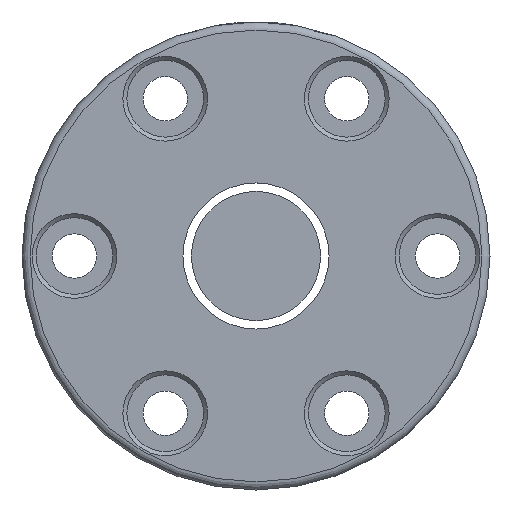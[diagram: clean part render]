
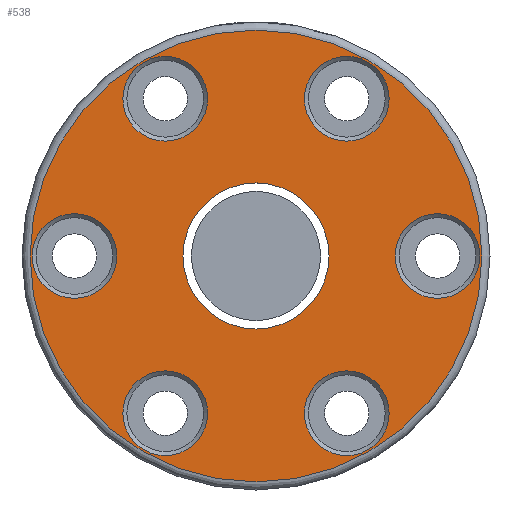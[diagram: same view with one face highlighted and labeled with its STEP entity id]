
A CAD part, left-side view. The second image highlights one B-rep face of the part: STEP entity #538.
In plain terms, the highlighted planar face has unit normal (-1, 0, 0).
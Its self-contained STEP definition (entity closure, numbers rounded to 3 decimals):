
#109 = ORIENTED_EDGE ( 'NONE', *, *, #191, .T. ) ;
#165 = ORIENTED_EDGE ( 'NONE', *, *, #185, .T. ) ;
#185 = EDGE_CURVE ( 'NONE', #1353, #1353, #282, .T. ) ;
#191 = EDGE_CURVE ( 'NONE', #1564, #1564, #1918, .T. ) ;
#196 = DIRECTION ( 'NONE',  ( 0., -1., 0. ) ) ;
#215 = FACE_BOUND ( 'NONE', #1520, .T. ) ;
#256 = EDGE_LOOP ( 'NONE', ( #2033 ) ) ;
#282 = CIRCLE ( 'NONE', #616, 5.25 ) ;
#286 = CIRCLE ( 'NONE', #1390, 5.25 ) ;
#338 = CIRCLE ( 'NONE', #578, 5.25 ) ;
#349 = CARTESIAN_POINT ( 'NONE',  ( -57., -22.5, 0. ) ) ;
#359 = EDGE_LOOP ( 'NONE', ( #109 ) ) ;
#374 = CIRCLE ( 'NONE', #2485, 5.25 ) ;
#404 = EDGE_CURVE ( 'NONE', #2519, #2519, #2445, .T. ) ;
#439 = DIRECTION ( 'NONE',  ( 1., 0., 0. ) ) ;
#467 = EDGE_LOOP ( 'NONE', ( #882 ) ) ;
#538 = ADVANCED_FACE ( 'NONE', ( #2969, #1096, #215, #2711, #2914, #2472, #2462, #858 ), #2025, .T. ) ;
#578 = AXIS2_PLACEMENT_3D ( 'NONE', #619, #1536, #196 ) ;
#594 = VERTEX_POINT ( 'NONE', #1029 ) ;
#616 = AXIS2_PLACEMENT_3D ( 'NONE', #1837, #2753, #2550 ) ;
#619 = CARTESIAN_POINT ( 'NONE',  ( -57., 11.25, 19.486 ) ) ;
#630 = EDGE_CURVE ( 'NONE', #901, #901, #374, .T. ) ;
#658 = CARTESIAN_POINT ( 'NONE',  ( -57., -27.75, 0. ) ) ;
#677 = CARTESIAN_POINT ( 'NONE',  ( -57., 11.25, -19.486 ) ) ;
#723 = CARTESIAN_POINT ( 'NONE',  ( -57., -16.5, -19.486 ) ) ;
#731 = DIRECTION ( 'NONE',  ( 1., 0., 0. ) ) ;
#798 = CARTESIAN_POINT ( 'NONE',  ( -57., 6., 19.486 ) ) ;
#858 = FACE_BOUND ( 'NONE', #467, .T. ) ;
#868 = CARTESIAN_POINT ( 'NONE',  ( -57., 9.05, 0. ) ) ;
#882 = ORIENTED_EDGE ( 'NONE', *, *, #1654, .T. ) ;
#901 = VERTEX_POINT ( 'NONE', #1287 ) ;
#918 = VERTEX_POINT ( 'NONE', #723 ) ;
#988 = EDGE_LOOP ( 'NONE', ( #165 ) ) ;
#999 = EDGE_CURVE ( 'NONE', #594, #594, #2892, .T. ) ;
#1029 = CARTESIAN_POINT ( 'NONE',  ( -57., 17.25, 0. ) ) ;
#1045 = CARTESIAN_POINT ( 'NONE',  ( -57., -16.5, 19.486 ) ) ;
#1096 = FACE_BOUND ( 'NONE', #1199, .T. ) ;
#1199 = EDGE_LOOP ( 'NONE', ( #1712 ) ) ;
#1264 = DIRECTION ( 'NONE',  ( 1., 0., 0. ) ) ;
#1287 = CARTESIAN_POINT ( 'NONE',  ( -57., 6., -19.486 ) ) ;
#1307 = ORIENTED_EDGE ( 'NONE', *, *, #1974, .T. ) ;
#1325 = DIRECTION ( 'NONE',  ( -1., 0., 0. ) ) ;
#1346 = DIRECTION ( 'NONE',  ( 0., 1., 0. ) ) ;
#1349 = DIRECTION ( 'NONE',  ( 0., -1., 0. ) ) ;
#1353 = VERTEX_POINT ( 'NONE', #1045 ) ;
#1386 = EDGE_CURVE ( 'NONE', #1596, #1596, #338, .T. ) ;
#1390 = AXIS2_PLACEMENT_3D ( 'NONE', #2847, #2880, #2611 ) ;
#1404 = DIRECTION ( 'NONE',  ( 0., -1., 0. ) ) ;
#1498 = VERTEX_POINT ( 'NONE', #868 ) ;
#1520 = EDGE_LOOP ( 'NONE', ( #1307 ) ) ;
#1536 = DIRECTION ( 'NONE',  ( 1., 0., 0. ) ) ;
#1564 = VERTEX_POINT ( 'NONE', #2952 ) ;
#1566 = DIRECTION ( 'NONE',  ( 0., -1., 0. ) ) ;
#1596 = VERTEX_POINT ( 'NONE', #798 ) ;
#1654 = EDGE_CURVE ( 'NONE', #1498, #1498, #2926, .T. ) ;
#1712 = ORIENTED_EDGE ( 'NONE', *, *, #630, .T. ) ;
#1766 = CARTESIAN_POINT ( 'NONE',  ( -57., 29., 0. ) ) ;
#1830 = AXIS2_PLACEMENT_3D ( 'NONE', #2129, #2558, #1404 ) ;
#1837 = CARTESIAN_POINT ( 'NONE',  ( -57., -11.25, 19.486 ) ) ;
#1870 = ORIENTED_EDGE ( 'NONE', *, *, #404, .T. ) ;
#1915 = AXIS2_PLACEMENT_3D ( 'NONE', #1766, #1325, #2504 ) ;
#1918 = CIRCLE ( 'NONE', #2158, 28. ) ;
#1974 = EDGE_CURVE ( 'NONE', #918, #918, #286, .T. ) ;
#2025 = PLANE ( 'NONE',  #1915 ) ;
#2031 = DIRECTION ( 'NONE',  ( -1., 0., 0. ) ) ;
#2033 = ORIENTED_EDGE ( 'NONE', *, *, #1386, .T. ) ;
#2059 = AXIS2_PLACEMENT_3D ( 'NONE', #349, #1264, #2368 ) ;
#2129 = CARTESIAN_POINT ( 'NONE',  ( -57., 22.5, 0. ) ) ;
#2158 = AXIS2_PLACEMENT_3D ( 'NONE', #2299, #2031, #1349 ) ;
#2299 = CARTESIAN_POINT ( 'NONE',  ( -57., 0., 0. ) ) ;
#2315 = EDGE_LOOP ( 'NONE', ( #1870 ) ) ;
#2368 = DIRECTION ( 'NONE',  ( 0., -1., 0. ) ) ;
#2445 = CIRCLE ( 'NONE', #2059, 5.25 ) ;
#2462 = FACE_BOUND ( 'NONE', #2921, .T. ) ;
#2472 = FACE_BOUND ( 'NONE', #256, .T. ) ;
#2485 = AXIS2_PLACEMENT_3D ( 'NONE', #677, #439, #1566 ) ;
#2504 = DIRECTION ( 'NONE',  ( 0., -1., 0. ) ) ;
#2519 = VERTEX_POINT ( 'NONE', #658 ) ;
#2546 = AXIS2_PLACEMENT_3D ( 'NONE', #2798, #731, #1346 ) ;
#2550 = DIRECTION ( 'NONE',  ( 0., -1., 0. ) ) ;
#2558 = DIRECTION ( 'NONE',  ( 1., 0., 0. ) ) ;
#2611 = DIRECTION ( 'NONE',  ( 0., -1., 0. ) ) ;
#2711 = FACE_BOUND ( 'NONE', #2315, .T. ) ;
#2753 = DIRECTION ( 'NONE',  ( 1., 0., 0. ) ) ;
#2798 = CARTESIAN_POINT ( 'NONE',  ( -57., 0., 0. ) ) ;
#2815 = ORIENTED_EDGE ( 'NONE', *, *, #999, .T. ) ;
#2847 = CARTESIAN_POINT ( 'NONE',  ( -57., -11.25, -19.486 ) ) ;
#2880 = DIRECTION ( 'NONE',  ( 1., 0., 0. ) ) ;
#2892 = CIRCLE ( 'NONE', #1830, 5.25 ) ;
#2914 = FACE_BOUND ( 'NONE', #988, .T. ) ;
#2921 = EDGE_LOOP ( 'NONE', ( #2815 ) ) ;
#2926 = CIRCLE ( 'NONE', #2546, 9.05 ) ;
#2952 = CARTESIAN_POINT ( 'NONE',  ( -57., -28., 0. ) ) ;
#2969 = FACE_OUTER_BOUND ( 'NONE', #359, .T. ) ;
